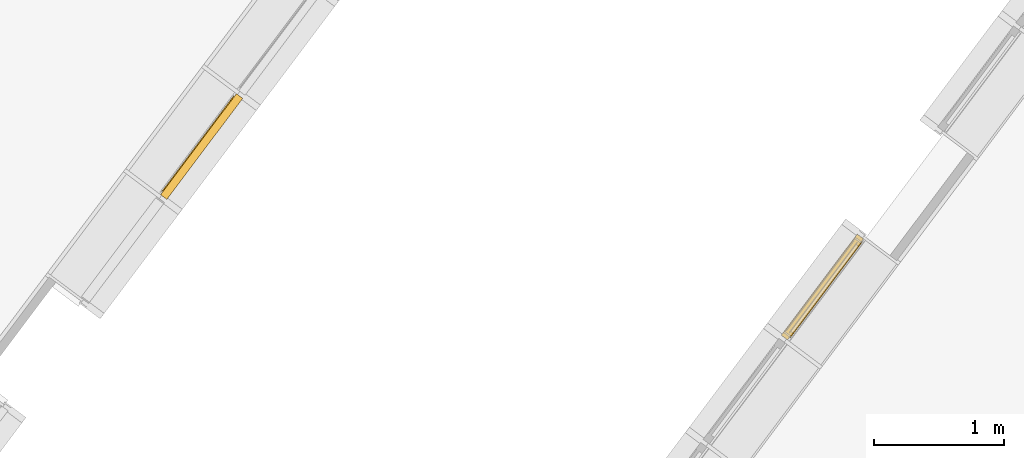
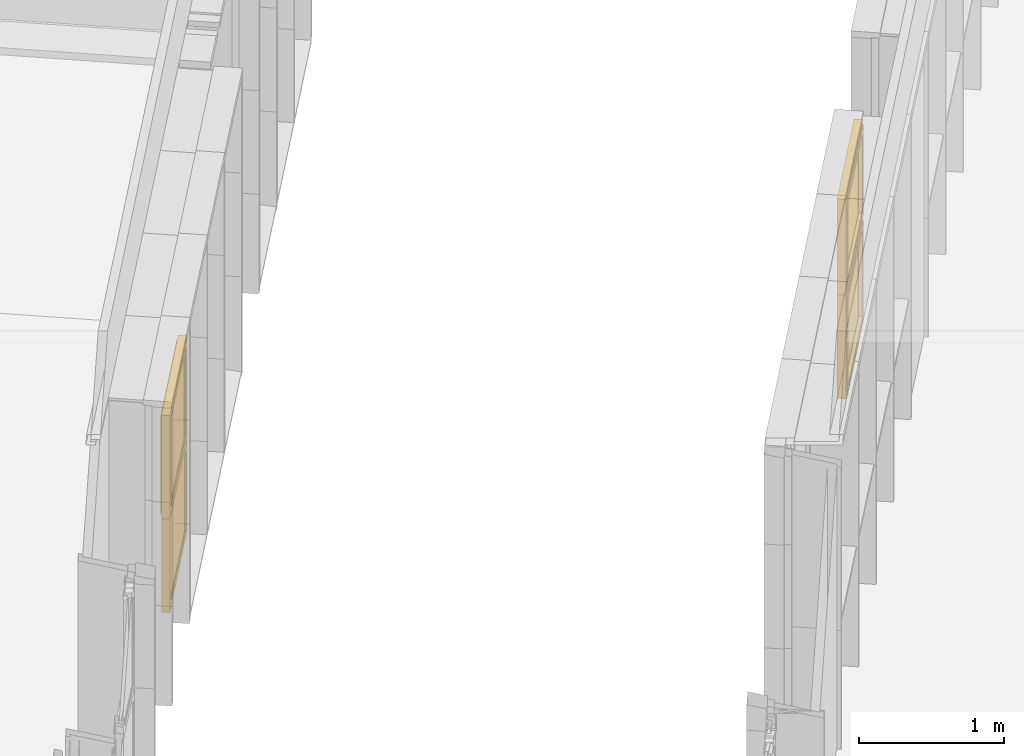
# One storey, part 184 of 243: 4 windows, 2 elements without a shape of their own.
"""IFC2X3 building model written with IfcOpenShell, lengths in metres."""

from ifc_helpers import new_model, entity, si_unit, converted_unit, derived_unit, direction, frame, origin, place, context, subcontext, project, spatial, faceted_brep, source, transform, mapped, material, material_list, type_object, type_shapes, element, aggregate, save


model = new_model("IFC2X3")

# Units and contexts
model_context = context("Model", 3, precision=1e-05, world=origin(), true_north=direction((6.123031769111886e-17, 1.0)))
body_context = subcontext(model_context, "Body", "Model", "MODEL_VIEW")
ifc_project = project(units=[si_unit("LENGTHUNIT", "METRE"), si_unit("AREAUNIT", "SQUARE_METRE"), si_unit("VOLUMEUNIT", "CUBIC_METRE"), converted_unit("PLANEANGLEUNIT", "DEGREE", entity("IfcRatioMeasure", 0.017453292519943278), si_unit("PLANEANGLEUNIT", "RADIAN"), dimensions=[0, 0, 0, 0, 0, 0, 0]), si_unit("MASSUNIT", "GRAM", prefix="KILO"), derived_unit("MASSDENSITYUNIT", [(si_unit("MASSUNIT", "GRAM", prefix="KILO"), 1), (si_unit("LENGTHUNIT", "METRE"), -3)]), derived_unit("IONCONCENTRATIONUNIT", [(si_unit("MASSUNIT", "GRAM", prefix="KILO"), 1), (si_unit("LENGTHUNIT", "METRE"), -3)]), derived_unit("MOMENTOFINERTIAUNIT", [(si_unit("LENGTHUNIT", "METRE"), 4)]), si_unit("TIMEUNIT", "SECOND"), si_unit("FREQUENCYUNIT", "HERTZ"), si_unit("THERMODYNAMICTEMPERATUREUNIT", "DEGREE_CELSIUS"), derived_unit("THERMALTRANSMITTANCEUNIT", [(si_unit("MASSUNIT", "GRAM", prefix="KILO"), 1), (si_unit("THERMODYNAMICTEMPERATUREUNIT", "KELVIN"), -1), (si_unit("TIMEUNIT", "SECOND"), -3)]), derived_unit("THERMALCONDUCTANCEUNIT", [(si_unit("MASSUNIT", "GRAM", prefix="KILO"), 1), (si_unit("THERMODYNAMICTEMPERATUREUNIT", "KELVIN"), -1), (si_unit("TIMEUNIT", "SECOND"), -3), (si_unit("LENGTHUNIT", "METRE"), 1)]), derived_unit("VOLUMETRICFLOWRATEUNIT", [(si_unit("LENGTHUNIT", "METRE"), 3), (si_unit("TIMEUNIT", "SECOND"), -1)]), derived_unit("MASSFLOWRATEUNIT", [(si_unit("MASSUNIT", "GRAM", prefix="KILO"), 1), (si_unit("TIMEUNIT", "SECOND"), -1)]), derived_unit("ROTATIONALFREQUENCYUNIT", [(si_unit("TIMEUNIT", "SECOND"), -1)]), si_unit("ELECTRICCURRENTUNIT", "AMPERE"), si_unit("ELECTRICVOLTAGEUNIT", "VOLT"), si_unit("POWERUNIT", "WATT"), si_unit("FORCEUNIT", "NEWTON", prefix="KILO"), si_unit("ILLUMINANCEUNIT", "LUX"), si_unit("LUMINOUSFLUXUNIT", "LUMEN"), si_unit("LUMINOUSINTENSITYUNIT", "CANDELA"), derived_unit("USERDEFINED", [(si_unit("MASSUNIT", "GRAM", prefix="KILO"), -1), (si_unit("LENGTHUNIT", "METRE"), -2), (si_unit("TIMEUNIT", "SECOND"), 3), (si_unit("LUMINOUSFLUXUNIT", "LUMEN"), 1)]), derived_unit("USERDEFINED", [(si_unit("MASSUNIT", "GRAM", prefix="KILO"), 1), (si_unit("TIMEUNIT", "SECOND"), -3), (si_unit("LENGTHUNIT", "METRE"), 3), (si_unit("ELECTRICCURRENTUNIT", "AMPERE"), -2)]), derived_unit("SOUNDPOWERUNIT", [(si_unit("MASSUNIT", "GRAM", prefix="KILO"), 1), (si_unit("TIMEUNIT", "SECOND"), -3), (si_unit("LENGTHUNIT", "METRE"), 2)]), derived_unit("SOUNDPRESSUREUNIT", [(si_unit("MASSUNIT", "GRAM", prefix="KILO"), 1), (si_unit("LENGTHUNIT", "METRE"), -1), (si_unit("TIMEUNIT", "SECOND"), -2)]), derived_unit("LINEARVELOCITYUNIT", [(si_unit("LENGTHUNIT", "METRE"), 1), (si_unit("TIMEUNIT", "SECOND"), -1)]), si_unit("PRESSUREUNIT", "PASCAL"), derived_unit("USERDEFINED", [(si_unit("MASSUNIT", "GRAM", prefix="KILO"), 1), (si_unit("LENGTHUNIT", "METRE"), -2), (si_unit("TIMEUNIT", "SECOND"), -2)]), derived_unit("LINEARFORCEUNIT", [(si_unit("MASSUNIT", "GRAM", prefix="KILO"), 1), (si_unit("TIMEUNIT", "SECOND"), -2)]), derived_unit("PLANARFORCEUNIT", [(si_unit("MASSUNIT", "GRAM", prefix="KILO"), 1), (si_unit("LENGTHUNIT", "METRE"), -1), (si_unit("TIMEUNIT", "SECOND"), -2)]), derived_unit("SPECIFICHEATCAPACITYUNIT", [(si_unit("THERMODYNAMICTEMPERATUREUNIT", "KELVIN"), -1), (si_unit("LENGTHUNIT", "METRE"), 2), (si_unit("TIMEUNIT", "SECOND"), -2)]), derived_unit("HEATINGVALUEUNIT", [(si_unit("LENGTHUNIT", "METRE"), 2), (si_unit("TIMEUNIT", "SECOND"), -2)]), derived_unit("VAPORPERMEABILITYUNIT", [(si_unit("LENGTHUNIT", "METRE"), -1), (si_unit("TIMEUNIT", "SECOND"), 1)]), derived_unit("DYNAMICVISCOSITYUNIT", [(si_unit("MASSUNIT", "GRAM", prefix="KILO"), 1), (si_unit("TIMEUNIT", "SECOND"), -1), (si_unit("LENGTHUNIT", "METRE"), -1)]), derived_unit("THERMALEXPANSIONCOEFFICIENTUNIT", [(si_unit("THERMODYNAMICTEMPERATUREUNIT", "KELVIN"), -1)]), derived_unit("MODULUSOFELASTICITYUNIT", [(si_unit("MASSUNIT", "GRAM", prefix="KILO"), 1), (si_unit("LENGTHUNIT", "METRE"), -1), (si_unit("TIMEUNIT", "SECOND"), -2)]), derived_unit("ISOTHERMALMOISTURECAPACITYUNIT", [(si_unit("LENGTHUNIT", "METRE"), 3), (si_unit("MASSUNIT", "GRAM", prefix="KILO"), -1)]), derived_unit("MOISTUREDIFFUSIVITYUNIT", [(si_unit("TIMEUNIT", "SECOND"), -1), (si_unit("LENGTHUNIT", "METRE"), 2)])], contexts=[model_context])

# Site, building, storey
site_placement = place(None, frame((0.0, 0.0, 235.0), z_axis=(0.0, 0.0, 1.0), x_axis=(-0.7996477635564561, 0.6004693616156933, 0.0)))
site = spatial("IfcSite", under=ifc_project, at=site_placement, Name="Default", CompositionType="ELEMENT")
building_placement = place(site_placement, origin())
building = spatial("IfcBuilding", under=site, at=building_placement, CompositionType="ELEMENT")
storey_placement = place(building_placement, origin())
storey = spatial("IfcBuildingStorey", under=building, at=storey_placement, Name="P0- Escola", CompositionType="ELEMENT", Elevation=0.0)

# Curtain wall, windows
curtain_wall_type_1 = type_object("IfcCurtainWallType", Name="Muro cortina:MC- EXT- MC2", PredefinedType="NOTDEFINED")
curtain_wall_1_placement = place(storey_placement, origin())
curtain_wall_1 = element("IfcCurtainWall", 1, at=curtain_wall_1_placement, inside=storey, type_object=curtain_wall_type_1, Name="Muro cortina:MC- EXT- MC2", ObjectType="Muro cortina:MC- EXT- MC2")
ifc_material_1 = material(Name="_Vidre")
ifc_material_2 = material(Name="_Alumini- T1- Perfil")
ifc_material_list = material_list([ifc_material_1, ifc_material_2])
window_style_1 = type_object("IfcWindowStyle", Name="MC- Alu- Conjunt vidre fix- 62x60 cm:MC- Alu- Conjunt vidre fix- 62x60 cm", ConstructionType="NOTDEFINED", OperationType="NOTDEFINED", ParameterTakesPrecedence=False, Sizeable=False, material=ifc_material_list)
shared_shape_1 = source(origin(), body_context, "Body", "Brep", [
    faceted_brep([(0.4361932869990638, -0.007600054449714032, 0.048806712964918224), (0.4361932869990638, -0.03160022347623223, 0.048806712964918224), (-0.4361932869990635, -0.03160022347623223, 0.048806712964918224), (-0.4361932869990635, -0.007600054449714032, 0.048806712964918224), (0.4361932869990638, -0.007600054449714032, 0.7387000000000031), (-0.4361932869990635, -0.007600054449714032, 0.7387000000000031), (-0.4361932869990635, -0.03160022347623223, 0.7387000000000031), (0.4361932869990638, -0.03160022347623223, 0.7387000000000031)], [[[0, 1, 2, 3]], [[4, 0, 3, 5]], [[5, 3, 2, 6]], [[6, 2, 1, 7]], [[7, 1, 0, 4]], [[4, 5, 6, 7]]]),
    faceted_brep([(0.48499999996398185, -0.05999999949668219, 0.7877000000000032), (0.48499999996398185, -0.05999999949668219, 0.0), (0.48499999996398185, 0.0, 0.0), (0.48499999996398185, 0.0, 0.787700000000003), (-0.48499999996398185, 0.0, 0.7877000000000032), (-0.48499999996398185, 0.0, 0.0), (0.4221931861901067, 0.0, 0.7248931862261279), (-0.42219318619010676, 0.0, 0.724893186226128), (-0.4221931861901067, 0.0, 0.0628068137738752), (0.4221931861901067, 0.0, 0.06280681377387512), (-0.48499999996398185, -0.05999999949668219, 0.0), (-0.48499999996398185, -0.05999999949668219, 0.7877000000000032), (-0.42219603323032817, -0.05999999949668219, 0.7248960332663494), (0.42219603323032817, -0.05999999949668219, 0.7248960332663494), (0.42219603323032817, -0.05999999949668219, 0.0628039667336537), (-0.42219603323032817, -0.05999999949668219, 0.0628039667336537), (0.4221960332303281, -0.03160022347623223, 0.7248960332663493), (0.42219603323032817, -0.03160022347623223, 0.0628039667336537), (-0.42219603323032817, -0.03160022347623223, 0.06280396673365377), (-0.42219603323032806, -0.03160022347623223, 0.7248960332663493), (-0.43619328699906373, -0.03160022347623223, 0.738893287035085), (0.43619328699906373, -0.03160022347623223, 0.738893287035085), (0.43619328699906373, -0.03160022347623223, 0.048806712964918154), (-0.43619328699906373, -0.03160022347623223, 0.04880671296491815), (0.43619328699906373, -0.007600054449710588, 0.738893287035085), (0.43619328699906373, -0.007600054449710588, 0.04880671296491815), (-0.43619328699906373, -0.007600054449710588, 0.048806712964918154), (-0.43619328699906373, -0.007600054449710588, 0.738893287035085), (-0.42219318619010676, -0.007600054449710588, 0.724893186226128), (0.42219318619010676, -0.007600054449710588, 0.724893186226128), (0.42219318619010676, -0.007600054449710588, 0.06280681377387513), (-0.42219318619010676, -0.007600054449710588, 0.06280681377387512)], [[[0, 1, 2, 3]], [[4, 3, 2, 5], [6, 7, 8, 9]], [[1, 10, 5, 2]], [[0, 11, 10, 1], [12, 13, 14, 15]], [[16, 17, 14, 13]], [[17, 18, 15, 14]], [[16, 19, 18, 17], [20, 21, 22, 23]], [[24, 25, 22, 21]], [[25, 26, 23, 22]], [[24, 27, 26, 25], [28, 29, 30, 31]], [[6, 9, 30, 29]], [[9, 8, 31, 30]], [[10, 11, 4, 5]], [[18, 19, 12, 15]], [[26, 27, 20, 23]], [[8, 7, 28, 31]], [[11, 0, 3, 4]], [[19, 16, 13, 12]], [[27, 24, 21, 20]], [[7, 6, 29, 28]]], outer=[[True], [True, False], [True], [True, False], [True], [True], [False, True], [True], [True], [True, False], [True], [True], [True], [True], [True], [True], [True], [True], [True], [True]]),
])
type_shapes(window_style_1, [shared_shape_1])
window_1_placement = place(curtain_wall_1_placement, frame((66.44514768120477, -26.915191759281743, 0.03229999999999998), z_axis=(0.0, 0.0, 1.0), x_axis=(0.0, 1.0, 0.0)))
window_1 = element("IfcWindow", 2, at=window_1_placement, type_object=window_style_1, material=ifc_material_list, Name="MC- Alu- Conjunt vidre fix- 62x60 cm:MC- Alu- Conjunt vidre fix- 62x60 cm", ObjectType="MC- Alu- Conjunt vidre fix- 62x60 cm:MC- Alu- Conjunt vidre fix- 62x60 cm", OverallHeight=0.7877000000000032, OverallWidth=0.9699999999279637, context=body_context, shape_type="MappedRepresentation", body=[
    mapped(shared_shape_1, transform((0.0, 0.0, 0.0), scale=1.0)),
])
window_style_2 = type_object("IfcWindowStyle", Name="MC- Alu- Conjunt finestra basculant- 68x68 cm:MC- Alu- Conjunt finestra basculant- 68x68 cm", ConstructionType="NOTDEFINED", OperationType="NOTDEFINED", ParameterTakesPrecedence=False, Sizeable=False, material=ifc_material_list)
shared_shape_2 = source(origin(), body_context, "Body", "Brep", [
    faceted_brep([(0.43291170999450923, -0.03559830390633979, 0.051999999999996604), (-0.43291170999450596, -0.03559830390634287, 0.051999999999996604), (-0.43291170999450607, -0.011598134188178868, 0.051999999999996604), (0.43291170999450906, -0.011598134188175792, 0.051999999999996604), (0.43291170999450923, -0.035598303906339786, 0.8228027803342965), (0.43291170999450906, -0.011598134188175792, 0.8228027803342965), (-0.43291170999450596, -0.011598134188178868, 0.8228027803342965), (-0.43291170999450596, -0.03559830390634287, 0.8228027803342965)], [[[0, 1, 2, 3]], [[4, 0, 3, 5]], [[5, 3, 2, 6]], [[6, 2, 1, 7]], [[7, 1, 0, 4]], [[4, 5, 6, 7]]]),
    faceted_brep([(-0.4172108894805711, -0.009998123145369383, 0.8071019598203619), (-0.4172108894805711, -0.00999812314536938, 0.06789804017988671), (-0.4172108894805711, -0.007998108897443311, 0.06789804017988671), (-0.4172108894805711, -0.007998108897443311, 0.8071019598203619), (-0.44610892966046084, -0.007998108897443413, 0.8360000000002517), (0.44610892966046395, -0.007998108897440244, 0.8360000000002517), (0.44610892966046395, -0.007998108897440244, 0.03899999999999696), (-0.44610892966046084, -0.007998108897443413, 0.03899999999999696), (0.4172108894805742, -0.007998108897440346, 0.8071019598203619), (0.4172108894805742, -0.007998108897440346, 0.06789804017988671), (0.4172108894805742, -0.009998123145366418, 0.06789804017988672), (0.4172108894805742, -0.009998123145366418, 0.8071019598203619), (0.4329117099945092, -0.00999812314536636, 0.8228027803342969), (-0.43291170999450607, -0.009998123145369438, 0.8228027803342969), (-0.43291170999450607, -0.009998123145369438, 0.05219721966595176), (0.4329117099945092, -0.00999812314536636, 0.052197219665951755), (-0.4329117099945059, -0.04079986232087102, 0.8228027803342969), (-0.4329117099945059, -0.04079986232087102, 0.052197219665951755), (0.4329117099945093, -0.04079986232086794, 0.05219721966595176), (0.4329117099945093, -0.04079986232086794, 0.8228027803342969), (0.41721088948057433, -0.040799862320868, 0.8071019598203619), (-0.41721088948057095, -0.04079986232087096, 0.8071019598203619), (-0.41721088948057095, -0.04079986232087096, 0.06789804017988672), (0.41721088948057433, -0.040799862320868, 0.06789804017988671), (-0.4172108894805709, -0.06800005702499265, 0.8071019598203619), (-0.4172108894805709, -0.06800005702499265, 0.06789804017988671), (0.4172108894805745, -0.0680000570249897, 0.06789804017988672), (0.4172108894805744, -0.0680000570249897, 0.8071019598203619), (0.4636128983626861, -0.06800005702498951, 0.8535039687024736), (-0.4636128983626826, -0.06800005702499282, 0.8535039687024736), (-0.4636128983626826, -0.06800005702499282, 0.021496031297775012), (0.4636128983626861, -0.06800005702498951, 0.021496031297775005), (-0.4636128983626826, -0.0645000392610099, 0.8535039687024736), (-0.4636128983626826, -0.06450003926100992, 0.021496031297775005), (0.4636128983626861, -0.06450003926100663, 0.021496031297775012), (0.4636128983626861, -0.06450003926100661, 0.8535039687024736), (0.44610892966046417, -0.06450003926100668, 0.8360000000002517), (-0.4461089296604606, -0.06450003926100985, 0.8360000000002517), (-0.4461089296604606, -0.06450003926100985, 0.03899999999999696), (0.44610892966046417, -0.06450003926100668, 0.038999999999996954)], [[[0, 1, 2, 3]], [[4, 5, 6, 7], [8, 3, 2, 9]], [[1, 10, 9, 2]], [[0, 11, 10, 1], [12, 13, 14, 15]], [[16, 17, 14, 13]], [[17, 18, 15, 14]], [[16, 19, 18, 17], [20, 21, 22, 23]], [[24, 25, 22, 21]], [[25, 26, 23, 22]], [[24, 27, 26, 25], [28, 29, 30, 31]], [[32, 33, 30, 29]], [[33, 34, 31, 30]], [[32, 35, 34, 33], [36, 37, 38, 39]], [[4, 7, 38, 37]], [[7, 6, 39, 38]], [[10, 11, 8, 9]], [[18, 19, 12, 15]], [[26, 27, 20, 23]], [[34, 35, 28, 31]], [[6, 5, 36, 39]], [[11, 0, 3, 8]], [[19, 16, 13, 12]], [[27, 24, 21, 20]], [[35, 32, 29, 28]], [[5, 4, 37, 36]]], outer=[[True], [True, False], [True], [False, True], [True], [True], [True, False], [True], [True], [False, True], [True], [True], [True, False], [True], [True], [True], [True], [True], [True], [True], [True], [True], [True], [True], [True]]),
    faceted_brep([(0.42219318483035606, 0.0, 0.8121931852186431), (0.42219318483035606, 0.0, 0.06280681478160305), (0.42219318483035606, -0.0040000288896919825, 0.06280681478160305), (0.42219318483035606, -0.0040000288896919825, 0.8121931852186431), (-0.42219318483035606, -0.0040000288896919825, 0.8121931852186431), (-0.42219318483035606, -0.0040000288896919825, 0.06280681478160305), (0.4575998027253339, -0.0040000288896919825, 0.8475998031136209), (-0.4575998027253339, -0.0040000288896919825, 0.8475998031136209), (-0.4575998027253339, -0.0040000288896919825, 0.027400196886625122), (0.4575998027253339, -0.0040000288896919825, 0.02740019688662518), (-0.42219318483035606, 0.0, 0.06280681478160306), (-0.42219318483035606, 0.0, 0.8121931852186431), (-0.48499999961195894, 0.0, 0.875000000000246), (0.48499999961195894, 0.0, 0.875000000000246), (0.48499999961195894, 0.0, 0.0), (-0.48499999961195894, 0.0, 0.0), (0.48499999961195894, -0.05999999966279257, 0.875000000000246), (0.48499999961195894, -0.05999999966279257, 0.0), (-0.48499999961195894, -0.05999999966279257, 0.0), (-0.48499999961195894, -0.05999999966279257, 0.875000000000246), (-0.4575998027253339, -0.05999999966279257, 0.8475998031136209), (0.4575998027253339, -0.05999999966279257, 0.8475998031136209), (0.4575998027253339, -0.05999999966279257, 0.027400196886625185), (-0.4575998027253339, -0.05999999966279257, 0.02740019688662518)], [[[0, 1, 2, 3]], [[4, 3, 2, 5], [6, 7, 8, 9]], [[1, 10, 5, 2]], [[0, 11, 10, 1], [12, 13, 14, 15]], [[16, 17, 14, 13]], [[17, 18, 15, 14]], [[16, 19, 18, 17], [20, 21, 22, 23]], [[6, 9, 22, 21]], [[9, 8, 23, 22]], [[10, 11, 4, 5]], [[18, 19, 12, 15]], [[8, 7, 20, 23]], [[11, 0, 3, 4]], [[19, 16, 13, 12]], [[7, 6, 21, 20]]], outer=[[True], [False, True], [True], [False, True], [True], [True], [True, False], [True], [True], [True], [True], [True], [True], [True], [True]]),
])
type_shapes(window_style_2, [shared_shape_2])
window_2_placement = place(curtain_wall_1_placement, frame((66.44514768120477, -26.915191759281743, 0.8200000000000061), z_axis=(0.0, 0.0, 1.0), x_axis=(0.0, 1.0, 0.0)))
window_2 = element("IfcWindow", 3, at=window_2_placement, type_object=window_style_2, material=ifc_material_list, Name="MC- Alu- Conjunt finestra basculant- 68x68 cm:MC- Alu- Conjunt finestra basculant- 68x68 cm", ObjectType="MC- Alu- Conjunt finestra basculant- 68x68 cm:MC- Alu- Conjunt finestra basculant- 68x68 cm", OverallHeight=0.8750000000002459, OverallWidth=0.9699999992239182, context=body_context, shape_type="MappedRepresentation", body=[
    mapped(shared_shape_2, transform((0.0, 0.0, 0.0), scale=1.0)),
])
aggregate(curtain_wall_1, [window_1, window_2])

curtain_wall_type_2 = type_object("IfcCurtainWallType", Name="Muro cortina:MC- EXT- MC5", PredefinedType="NOTDEFINED")
curtain_wall_2_placement = place(storey_placement, origin())
curtain_wall_2 = element("IfcCurtainWall", 4, at=curtain_wall_2_placement, inside=storey, type_object=curtain_wall_type_2, Name="Muro cortina:MC- EXT- MC5", ObjectType="Muro cortina:MC- EXT- MC5")
window_style_3 = type_object("IfcWindowStyle", Name="MC- Alu- Conjunt finestra basculant- 68x68 cm:MC- Alu- Conjunt finestra basculant- 68x68 cm", ConstructionType="NOTDEFINED", OperationType="NOTDEFINED", ParameterTakesPrecedence=False, Sizeable=False, material=ifc_material_list)
shared_shape_3 = source(origin(), body_context, "Body", "Brep", [
    faceted_brep([(-0.43291170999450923, -0.03559830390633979, 0.051999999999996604), (-0.43291170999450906, -0.011598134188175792, 0.051999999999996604), (0.43291170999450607, -0.011598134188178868, 0.051999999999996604), (0.43291170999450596, -0.03559830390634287, 0.051999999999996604), (-0.43291170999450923, -0.03559830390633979, 0.8228027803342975), (-0.4329117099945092, -0.011598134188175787, 0.8228027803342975), (0.43291170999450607, -0.011598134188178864, 0.8228027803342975), (0.43291170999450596, -0.03559830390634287, 0.8228027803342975)], [[[0, 1, 2, 3]], [[4, 5, 1, 0]], [[5, 6, 2, 1]], [[6, 7, 3, 2]], [[7, 4, 0, 3]], [[4, 7, 6, 5]]]),
    faceted_brep([(0.4172108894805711, -0.009998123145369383, 0.8071019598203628), (0.4172108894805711, -0.007998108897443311, 0.8071019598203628), (0.4172108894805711, -0.007998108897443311, 0.06789804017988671), (0.4172108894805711, -0.009998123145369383, 0.06789804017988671), (0.44610892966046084, -0.007998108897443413, 0.8360000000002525), (0.44610892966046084, -0.007998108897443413, 0.03899999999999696), (-0.44610892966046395, -0.007998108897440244, 0.03899999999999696), (-0.44610892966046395, -0.007998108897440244, 0.8360000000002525), (-0.4172108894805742, -0.007998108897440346, 0.8071019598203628), (-0.4172108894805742, -0.007998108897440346, 0.06789804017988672), (-0.4172108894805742, -0.009998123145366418, 0.06789804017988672), (-0.4172108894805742, -0.009998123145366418, 0.8071019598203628), (-0.4329117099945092, -0.00999812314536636, 0.8228027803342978), (-0.4329117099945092, -0.009998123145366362, 0.05219721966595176), (0.43291170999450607, -0.009998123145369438, 0.052197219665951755), (0.43291170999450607, -0.009998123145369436, 0.8228027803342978), (0.4329117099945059, -0.04079986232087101, 0.8228027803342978), (0.4329117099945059, -0.04079986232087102, 0.052197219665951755), (-0.4329117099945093, -0.04079986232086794, 0.05219721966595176), (-0.4329117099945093, -0.04079986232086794, 0.8228027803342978), (-0.41721088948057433, -0.040799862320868, 0.8071019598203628), (-0.41721088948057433, -0.040799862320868, 0.06789804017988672), (0.41721088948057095, -0.04079986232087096, 0.06789804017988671), (0.41721088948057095, -0.04079986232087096, 0.8071019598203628), (0.41721088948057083, -0.06800005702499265, 0.8071019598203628), (0.4172108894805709, -0.06800005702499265, 0.06789804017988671), (-0.4172108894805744, -0.0680000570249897, 0.06789804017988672), (-0.4172108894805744, -0.0680000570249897, 0.8071019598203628), (-0.4636128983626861, -0.06800005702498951, 0.8535039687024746), (-0.4636128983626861, -0.06800005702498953, 0.021496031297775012), (0.4636128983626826, -0.06800005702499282, 0.021496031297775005), (0.4636128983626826, -0.06800005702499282, 0.8535039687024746), (0.4636128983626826, -0.0645000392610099, 0.8535039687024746), (0.4636128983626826, -0.0645000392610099, 0.021496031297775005), (-0.4636128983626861, -0.06450003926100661, 0.021496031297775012), (-0.4636128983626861, -0.06450003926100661, 0.8535039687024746), (-0.44610892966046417, -0.06450003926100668, 0.8360000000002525), (-0.44610892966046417, -0.06450003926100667, 0.03899999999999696), (0.4461089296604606, -0.06450003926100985, 0.038999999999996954), (0.4461089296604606, -0.06450003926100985, 0.8360000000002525)], [[[0, 1, 2, 3]], [[4, 5, 6, 7], [8, 9, 2, 1]], [[3, 2, 9, 10]], [[0, 3, 10, 11], [12, 13, 14, 15]], [[16, 15, 14, 17]], [[17, 14, 13, 18]], [[16, 17, 18, 19], [20, 21, 22, 23]], [[24, 23, 22, 25]], [[25, 22, 21, 26]], [[24, 25, 26, 27], [28, 29, 30, 31]], [[32, 31, 30, 33]], [[33, 30, 29, 34]], [[32, 33, 34, 35], [36, 37, 38, 39]], [[4, 39, 38, 5]], [[5, 38, 37, 6]], [[10, 9, 8, 11]], [[18, 13, 12, 19]], [[26, 21, 20, 27]], [[34, 29, 28, 35]], [[6, 37, 36, 7]], [[11, 8, 1, 0]], [[19, 12, 15, 16]], [[27, 20, 23, 24]], [[35, 28, 31, 32]], [[7, 36, 39, 4]]], outer=[[True], [True, False], [True], [False, True], [True], [True], [True, False], [True], [True], [False, True], [True], [True], [True, False], [True], [True], [True], [True], [True], [True], [True], [True], [True], [True], [True], [True]]),
    faceted_brep([(-0.42219318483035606, 0.0, 0.8121931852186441), (-0.42219318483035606, -0.0040000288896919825, 0.8121931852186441), (-0.422193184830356, -0.0040000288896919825, 0.06280681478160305), (-0.42219318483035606, 0.0, 0.06280681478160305), (-0.4575998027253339, -0.0040000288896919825, 0.847599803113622), (-0.4575998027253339, -0.0040000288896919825, 0.027400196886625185), (0.4575998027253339, -0.0040000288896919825, 0.027400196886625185), (0.4575998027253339, -0.0040000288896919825, 0.847599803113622), (0.422193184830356, -0.0040000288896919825, 0.812193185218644), (0.42219318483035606, -0.0040000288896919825, 0.06280681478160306), (0.42219318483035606, 0.0, 0.06280681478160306), (0.42219318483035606, 0.0, 0.8121931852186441), (0.4849999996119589, 0.0, 0.8750000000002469), (0.48499999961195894, 0.0, 0.0), (-0.4849999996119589, 0.0, 0.0), (-0.48499999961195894, 0.0, 0.8750000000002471), (-0.48499999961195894, -0.05999999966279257, 0.8750000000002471), (-0.48499999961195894, -0.05999999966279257, 0.0), (0.48499999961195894, -0.05999999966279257, 0.0), (0.48499999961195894, -0.05999999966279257, 0.8750000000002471), (0.45759980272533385, -0.05999999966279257, 0.8475998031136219), (0.4575998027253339, -0.05999999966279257, 0.027400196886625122), (-0.45759980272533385, -0.05999999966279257, 0.027400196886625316), (-0.4575998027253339, -0.05999999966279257, 0.847599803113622)], [[[0, 1, 2, 3]], [[4, 5, 6, 7], [8, 9, 2, 1]], [[3, 2, 9, 10]], [[0, 3, 10, 11], [12, 13, 14, 15]], [[16, 15, 14, 17]], [[17, 14, 13, 18]], [[16, 17, 18, 19], [20, 21, 22, 23]], [[4, 23, 22, 5]], [[5, 22, 21, 6]], [[10, 9, 8, 11]], [[18, 13, 12, 19]], [[6, 21, 20, 7]], [[11, 8, 1, 0]], [[19, 12, 15, 16]], [[7, 20, 23, 4]]], outer=[[True], [True, False], [True], [False, True], [True], [True], [True, False], [True], [True], [True], [True], [True], [True], [True], [True]]),
])
type_shapes(window_style_3, [shared_shape_3])
window_3_placement = place(curtain_wall_2_placement, frame((62.045147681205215, -28.9151917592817, 0.8200000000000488), z_axis=(0.0, 0.0, 1.0), x_axis=(0.0, -1.0, 0.0)))
window_3 = element("IfcWindow", 5, at=window_3_placement, type_object=window_style_3, material=ifc_material_list, Name="MC- Alu- Conjunt finestra basculant- 68x68 cm:MC- Alu- Conjunt finestra basculant- 68x68 cm", ObjectType="MC- Alu- Conjunt finestra basculant- 68x68 cm:MC- Alu- Conjunt finestra basculant- 68x68 cm", OverallHeight=0.8750000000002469, OverallWidth=0.9699999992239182, context=body_context, shape_type="MappedRepresentation", body=[
    mapped(shared_shape_3, transform((0.0, 0.0, 0.0), scale=1.0)),
])
window_style_4 = type_object("IfcWindowStyle", Name="MC- Alu- Conjunt finestra basculant- 68x68 cm:MC- Alu- Conjunt finestra basculant- 68x68 cm", ConstructionType="NOTDEFINED", OperationType="NOTDEFINED", ParameterTakesPrecedence=False, Sizeable=False, material=ifc_material_list)
shared_shape_4 = source(origin(), body_context, "Body", "Brep", [
    faceted_brep([(-0.43291170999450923, -0.03559830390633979, 0.051999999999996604), (-0.43291170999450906, -0.011598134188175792, 0.051999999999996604), (0.43291170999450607, -0.011598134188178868, 0.051999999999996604), (0.43291170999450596, -0.03559830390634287, 0.051999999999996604), (-0.43291170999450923, -0.03559830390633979, 0.7565527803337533), (-0.4329117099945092, -0.011598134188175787, 0.7565527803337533), (0.43291170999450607, -0.011598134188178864, 0.7565527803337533), (0.43291170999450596, -0.03559830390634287, 0.7565527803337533)], [[[0, 1, 2, 3]], [[4, 5, 1, 0]], [[5, 6, 2, 1]], [[6, 7, 3, 2]], [[7, 4, 0, 3]], [[4, 7, 6, 5]]]),
    faceted_brep([(0.4172108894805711, -0.009998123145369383, 0.7408519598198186), (0.4172108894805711, -0.007998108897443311, 0.7408519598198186), (0.4172108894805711, -0.007998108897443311, 0.06789804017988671), (0.4172108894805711, -0.009998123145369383, 0.06789804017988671), (0.44610892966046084, -0.007998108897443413, 0.7697499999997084), (0.44610892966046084, -0.007998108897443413, 0.03899999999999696), (-0.44610892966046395, -0.007998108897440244, 0.03899999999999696), (-0.44610892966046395, -0.007998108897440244, 0.7697499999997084), (-0.4172108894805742, -0.007998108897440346, 0.7408519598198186), (-0.4172108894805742, -0.007998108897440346, 0.06789804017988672), (-0.4172108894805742, -0.009998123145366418, 0.06789804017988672), (-0.4172108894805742, -0.009998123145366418, 0.7408519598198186), (-0.4329117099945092, -0.00999812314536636, 0.7565527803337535), (-0.4329117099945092, -0.009998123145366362, 0.05219721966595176), (0.43291170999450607, -0.009998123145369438, 0.052197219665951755), (0.43291170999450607, -0.009998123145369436, 0.7565527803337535), (0.4329117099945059, -0.04079986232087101, 0.7565527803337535), (0.4329117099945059, -0.04079986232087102, 0.052197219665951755), (-0.4329117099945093, -0.04079986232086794, 0.05219721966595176), (-0.4329117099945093, -0.04079986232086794, 0.7565527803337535), (-0.41721088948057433, -0.040799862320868, 0.7408519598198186), (-0.41721088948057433, -0.040799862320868, 0.06789804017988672), (0.41721088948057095, -0.04079986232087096, 0.06789804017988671), (0.41721088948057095, -0.04079986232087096, 0.7408519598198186), (0.41721088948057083, -0.06800005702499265, 0.7408519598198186), (0.4172108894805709, -0.06800005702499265, 0.06789804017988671), (-0.4172108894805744, -0.0680000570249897, 0.06789804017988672), (-0.4172108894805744, -0.0680000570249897, 0.7408519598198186), (-0.4636128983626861, -0.06800005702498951, 0.7872539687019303), (-0.4636128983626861, -0.06800005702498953, 0.021496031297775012), (0.4636128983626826, -0.06800005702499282, 0.021496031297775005), (0.4636128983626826, -0.06800005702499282, 0.7872539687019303), (0.4636128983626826, -0.0645000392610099, 0.7872539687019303), (0.4636128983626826, -0.0645000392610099, 0.021496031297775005), (-0.4636128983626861, -0.06450003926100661, 0.021496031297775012), (-0.4636128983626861, -0.06450003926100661, 0.7872539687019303), (-0.44610892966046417, -0.06450003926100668, 0.7697499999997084), (-0.44610892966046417, -0.06450003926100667, 0.03899999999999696), (0.4461089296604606, -0.06450003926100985, 0.038999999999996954), (0.4461089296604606, -0.06450003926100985, 0.7697499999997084)], [[[0, 1, 2, 3]], [[4, 5, 6, 7], [8, 9, 2, 1]], [[3, 2, 9, 10]], [[0, 3, 10, 11], [12, 13, 14, 15]], [[16, 15, 14, 17]], [[17, 14, 13, 18]], [[16, 17, 18, 19], [20, 21, 22, 23]], [[24, 23, 22, 25]], [[25, 22, 21, 26]], [[24, 25, 26, 27], [28, 29, 30, 31]], [[32, 31, 30, 33]], [[33, 30, 29, 34]], [[32, 33, 34, 35], [36, 37, 38, 39]], [[4, 39, 38, 5]], [[5, 38, 37, 6]], [[10, 9, 8, 11]], [[18, 13, 12, 19]], [[26, 21, 20, 27]], [[34, 29, 28, 35]], [[6, 37, 36, 7]], [[11, 8, 1, 0]], [[19, 12, 15, 16]], [[27, 20, 23, 24]], [[35, 28, 31, 32]], [[7, 36, 39, 4]]], outer=[[True], [True, False], [True], [False, True], [True], [True], [True, False], [True], [True], [False, True], [True], [True], [True, False], [True], [True], [True], [True], [True], [True], [True], [True], [True], [True], [True], [True]]),
    faceted_brep([(-0.42219318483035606, 0.0, 0.7459431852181), (-0.42219318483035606, -0.0040000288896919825, 0.7459431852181), (-0.422193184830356, -0.0040000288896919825, 0.06280681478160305), (-0.42219318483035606, 0.0, 0.06280681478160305), (-0.4575998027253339, -0.0040000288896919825, 0.7813498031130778), (-0.4575998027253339, -0.0040000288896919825, 0.027400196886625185), (0.4575998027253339, -0.0040000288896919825, 0.027400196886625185), (0.4575998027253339, -0.0040000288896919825, 0.7813498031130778), (0.422193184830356, -0.0040000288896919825, 0.7459431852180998), (0.42219318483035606, -0.0040000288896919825, 0.06280681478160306), (0.42219318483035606, 0.0, 0.06280681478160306), (0.42219318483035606, 0.0, 0.7459431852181), (0.48499999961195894, 0.0, 0.8087499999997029), (0.48499999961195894, 0.0, 0.0), (-0.48499999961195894, 0.0, 0.0), (-0.48499999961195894, 0.0, 0.8087499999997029), (-0.48499999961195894, -0.05999999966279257, 0.8087499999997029), (-0.48499999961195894, -0.05999999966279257, 0.0), (0.48499999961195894, -0.05999999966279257, 0.0), (0.48499999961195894, -0.05999999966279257, 0.8087499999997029), (0.4575998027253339, -0.05999999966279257, 0.7813498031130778), (0.4575998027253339, -0.05999999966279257, 0.027400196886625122), (-0.4575998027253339, -0.05999999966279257, 0.02740019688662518), (-0.4575998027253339, -0.05999999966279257, 0.7813498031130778)], [[[0, 1, 2, 3]], [[4, 5, 6, 7], [8, 9, 2, 1]], [[3, 2, 9, 10]], [[0, 3, 10, 11], [12, 13, 14, 15]], [[16, 15, 14, 17]], [[17, 14, 13, 18]], [[16, 17, 18, 19], [20, 21, 22, 23]], [[4, 23, 22, 5]], [[5, 22, 21, 6]], [[10, 9, 8, 11]], [[18, 13, 12, 19]], [[6, 21, 20, 7]], [[11, 8, 1, 0]], [[19, 12, 15, 16]], [[7, 20, 23, 4]]], outer=[[True], [True, False], [True], [False, True], [True], [True], [True, False], [True], [True], [True], [True], [True], [True], [True], [True]]),
])
type_shapes(window_style_4, [shared_shape_4])
window_4_placement = place(curtain_wall_2_placement, frame((62.045147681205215, -28.9151917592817, 1.695000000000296), z_axis=(0.0, 0.0, 1.0), x_axis=(0.0, -1.0, 0.0)))
window_4 = element("IfcWindow", 6, at=window_4_placement, type_object=window_style_4, material=ifc_material_list, Name="MC- Alu- Conjunt finestra basculant- 68x68 cm:MC- Alu- Conjunt finestra basculant- 68x68 cm", ObjectType="MC- Alu- Conjunt finestra basculant- 68x68 cm:MC- Alu- Conjunt finestra basculant- 68x68 cm", OverallHeight=0.8087499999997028, OverallWidth=0.9699999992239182, context=body_context, shape_type="MappedRepresentation", body=[
    mapped(shared_shape_4, transform((0.0, 0.0, 0.0), scale=1.0)),
])
aggregate(curtain_wall_2, [window_3, window_4])

save(model, "model.ifc")
